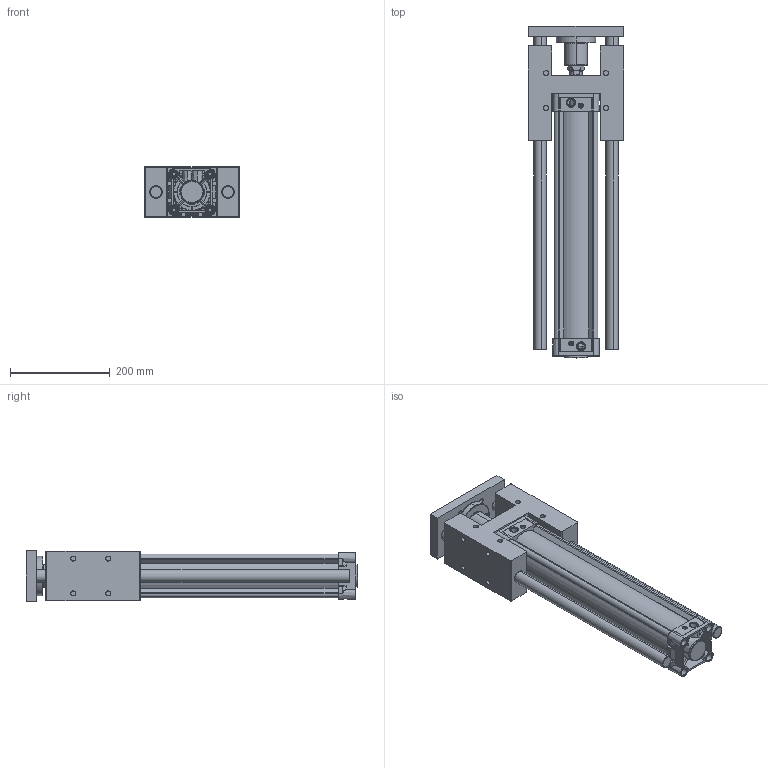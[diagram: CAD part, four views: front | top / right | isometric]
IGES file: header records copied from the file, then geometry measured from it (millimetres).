
Start section: SolidWorks IGES file using analytic representation for surfaces
Global section: file name: D:\ARICA 3D 禽Z軲LER\3D IGES\DNC-H\MDNC\80\MDNC80X400H-YATAK.IGS,1; native system: 5HSolidWorks 2013; preprocessor: SolidWorks 2013; author: user; date: 160520.172818; units: millimetre
Bounding box: 191 x 666.9 x 100.5 mm (x, y, z)
Surface area: 953379.3 mm2 (no closed solid volume)
Topology: 0 solids, 0 shells, 1193 faces, 20524 edges, 20514 vertices
Faces by surface type: revolution 744, bspline 449
